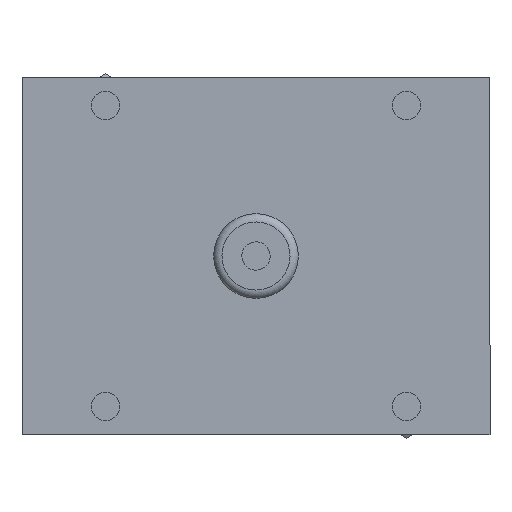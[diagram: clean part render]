
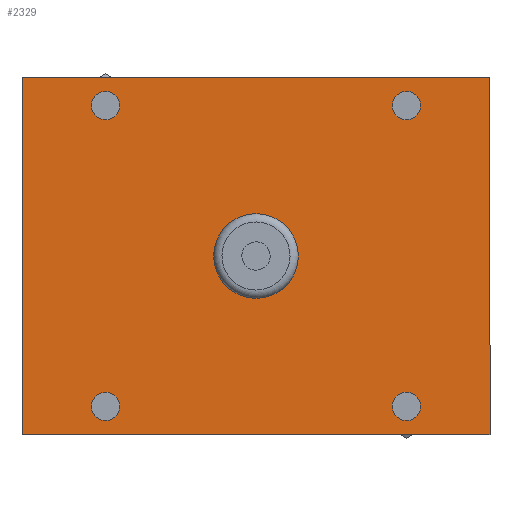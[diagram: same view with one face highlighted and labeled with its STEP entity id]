
A CAD part, front view. The second image highlights one B-rep face of the part: STEP entity #2329.
In plain terms, the highlighted planar face has unit normal (0, -1, 0).
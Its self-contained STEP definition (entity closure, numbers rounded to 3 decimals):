
#1890=CARTESIAN_POINT('',(-55.,0.,42.));
#1891=VERTEX_POINT('',#1890);
#1898=CARTESIAN_POINT('',(55.,0.,42.));
#1899=VERTEX_POINT('',#1898);
#1900=CARTESIAN_POINT('',(55.,0.,42.));
#1901=DIRECTION('',(-1.0,0.0,0.0));
#1902=VECTOR('',#1901,110.0);
#1903=LINE('',#1900,#1902);
#1904=EDGE_CURVE('',#1899,#1891,#1903,.T.);
#2008=CARTESIAN_POINT('',(55.,0.,-42.));
#2009=VERTEX_POINT('',#2008);
#2016=CARTESIAN_POINT('',(-55.,0.,-42.));
#2017=VERTEX_POINT('',#2016);
#2018=CARTESIAN_POINT('',(-55.,0.,-42.));
#2019=DIRECTION('',(1.0,0.0,0.0));
#2020=VECTOR('',#2019,110.);
#2021=LINE('',#2018,#2020);
#2022=EDGE_CURVE('',#2017,#2009,#2021,.T.);
#2237=CARTESIAN_POINT('',(0.,0.,-9.936));
#2238=VERTEX_POINT('',#2237);
#2239=CARTESIAN_POINT('',(0.,0.0,0.));
#2240=DIRECTION('',(0.0,1.0,0.0));
#2241=DIRECTION('',(0.0,0.0,1.0));
#2242=AXIS2_PLACEMENT_3D('',#2239,#2240,#2241);
#2243=CIRCLE('',#2242,9.936);
#2244=EDGE_CURVE('',#2238,#2238,#2243,.T.);
#2261=CARTESIAN_POINT('',(0.,0.,0.));
#2262=DIRECTION('',(0.0,1.0,0.0));
#2263=DIRECTION('',(0.0,0.0,-1.0));
#2264=AXIS2_PLACEMENT_3D('',#2261,#2262,#2263);
#2265=PLANE('',#2264);
#2266=CARTESIAN_POINT('',(-55.,0.,42.));
#2267=DIRECTION('',(0.0,0.0,-1.0));
#2268=VECTOR('',#2267,84.);
#2269=LINE('',#2266,#2268);
#2270=EDGE_CURVE('',#1891,#2017,#2269,.T.);
#2271=ORIENTED_EDGE('',*,*,#2270,.T.);
#2272=ORIENTED_EDGE('',*,*,#2022,.T.);
#2273=CARTESIAN_POINT('',(55.,0.,-42.));
#2274=DIRECTION('',(0.0,0.0,1.0));
#2275=VECTOR('',#2274,84.0);
#2276=LINE('',#2273,#2275);
#2277=EDGE_CURVE('',#2009,#1899,#2276,.T.);
#2278=ORIENTED_EDGE('',*,*,#2277,.T.);
#2279=ORIENTED_EDGE('',*,*,#1904,.T.);
#2280=EDGE_LOOP('',(#2271,#2272,#2278,#2279));
#2281=FACE_OUTER_BOUND('',#2280,.T.);
#2282=CARTESIAN_POINT('',(-35.355,0.,-32.032));
#2283=VERTEX_POINT('',#2282);
#2284=CARTESIAN_POINT('',(-35.355,0.,-35.355));
#2285=DIRECTION('',(0.0,1.0,0.0));
#2286=DIRECTION('',(0.0,0.0,1.0));
#2287=AXIS2_PLACEMENT_3D('',#2284,#2285,#2286);
#2288=CIRCLE('',#2287,3.324);
#2289=EDGE_CURVE('',#2283,#2283,#2288,.T.);
#2290=ORIENTED_EDGE('',*,*,#2289,.T.);
#2291=EDGE_LOOP('',(#2290));
#2292=FACE_BOUND('',#2291,.T.);
#2293=CARTESIAN_POINT('',(35.355,0.,-32.032));
#2294=VERTEX_POINT('',#2293);
#2295=CARTESIAN_POINT('',(35.355,0.,-35.355));
#2296=DIRECTION('',(0.0,1.0,0.0));
#2297=DIRECTION('',(0.0,0.0,1.0));
#2298=AXIS2_PLACEMENT_3D('',#2295,#2296,#2297);
#2299=CIRCLE('',#2298,3.324);
#2300=EDGE_CURVE('',#2294,#2294,#2299,.T.);
#2301=ORIENTED_EDGE('',*,*,#2300,.T.);
#2302=EDGE_LOOP('',(#2301));
#2303=FACE_BOUND('',#2302,.T.);
#2304=CARTESIAN_POINT('',(35.355,0.,38.679));
#2305=VERTEX_POINT('',#2304);
#2306=CARTESIAN_POINT('',(35.355,0.,35.355));
#2307=DIRECTION('',(0.0,1.0,0.0));
#2308=DIRECTION('',(0.0,0.0,1.0));
#2309=AXIS2_PLACEMENT_3D('',#2306,#2307,#2308);
#2310=CIRCLE('',#2309,3.324);
#2311=EDGE_CURVE('',#2305,#2305,#2310,.T.);
#2312=ORIENTED_EDGE('',*,*,#2311,.T.);
#2313=EDGE_LOOP('',(#2312));
#2314=FACE_BOUND('',#2313,.T.);
#2315=CARTESIAN_POINT('',(-35.355,0.,38.679));
#2316=VERTEX_POINT('',#2315);
#2317=CARTESIAN_POINT('',(-35.355,0.,35.355));
#2318=DIRECTION('',(0.0,1.0,0.0));
#2319=DIRECTION('',(0.0,0.0,1.0));
#2320=AXIS2_PLACEMENT_3D('',#2317,#2318,#2319);
#2321=CIRCLE('',#2320,3.324);
#2322=EDGE_CURVE('',#2316,#2316,#2321,.T.);
#2323=ORIENTED_EDGE('',*,*,#2322,.T.);
#2324=EDGE_LOOP('',(#2323));
#2325=FACE_BOUND('',#2324,.T.);
#2326=ORIENTED_EDGE('',*,*,#2244,.T.);
#2327=EDGE_LOOP('',(#2326));
#2328=FACE_BOUND('',#2327,.T.);
#2329=ADVANCED_FACE('',(#2281,#2292,#2303,#2314,#2325,#2328),#2265,.F.);
